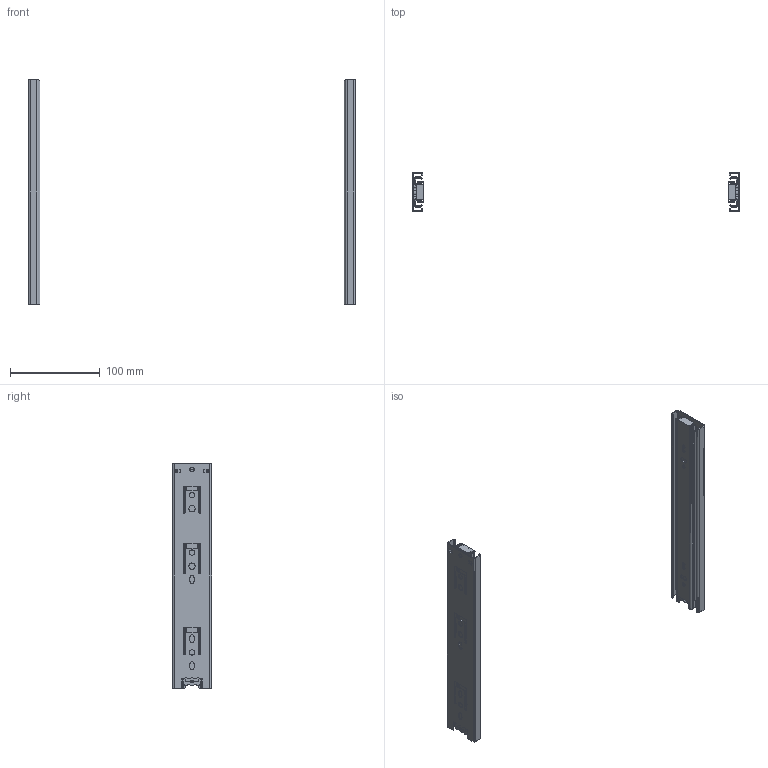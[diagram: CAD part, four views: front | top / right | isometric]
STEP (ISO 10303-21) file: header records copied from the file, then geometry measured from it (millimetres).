
FILE_DESCRIPTION(/* description */ (''),/* implementation_level */ '2;1');
FILE_NAME(/* name */ 'D:\$Workingspace\Designs\Katalog\Cadsoft\GTV Prowadnice\Prowadnice GTV_bryły 3D\PK-0H45250XP.stp',/* time_stamp */ '2016-11-22T12:23:13+01:00',/* author */ ('tomaszw'),/* organization */ (''),/* preprocessor_version */ 'ST-DEVELOPER v16.1',/* originating_system */ 'Autodesk Inventor 2016',/* authorisation */ '');
FILE_SCHEMA (('AUTOMOTIVE_DESIGN { 1 0 10303 214 3 1 1 }'));
Length unit declared in the file: millimetre
Products named in the file (5): Blokada_5; PK-0H45_1-250-XP; PK-0H45_2-250-XP; PK-0H45_3-250-XP; PK-0H45-_-XP
Assembly tree (8 placements, depth 2):
  PK-0H45-_-XP
    Blokada_5  x2
    PK-0H45_1-250-XP  x2
    PK-0H45_2-250-XP  x2
    PK-0H45_3-250-XP  x2
Bounding box: 364 x 43.7 x 250 mm (x, y, z)
Volume: 73622.2 mm3; surface area: 149698.9 mm2
Topology: 8 solids, 8 shells, 426 faces, 1222 edges, 812 vertices
Faces by surface type: cylinder 214, plane 208, cone 4
Full cylindrical faces by diameter (mm): 4.5 x4, 5 x2, 6 x6, 7 x4
Entity records: 7452 total; most frequent: CARTESIAN_POINT 1261, DIRECTION 1259, ORIENTED_EDGE 1206, EDGE_CURVE 603, AXIS2_PLACEMENT_3D 438, VERTEX_POINT 406, LINE 383, VECTOR 383
